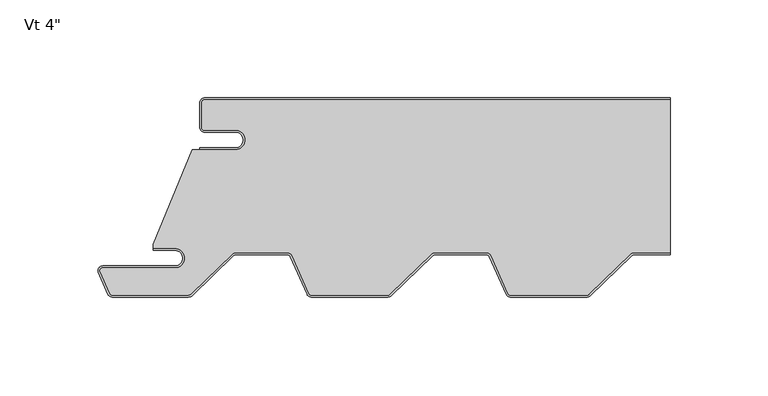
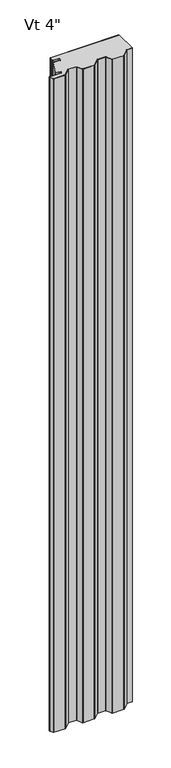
"""IFC4 building model written with IfcOpenShell, lengths in millimetres: plate geometry."""

from ifc_helpers import new_model, si_unit, point, frame_2d, origin, origin_with_axes, place, context, project, spatial, polyline, circle_curve, trimmed, segment, composite_curve, outline, extrude, source, transform, mapped, element, save


def plate_eade193c(model_context):
    return source(origin(), model_context, "Body", "SweptSolid", [
        extrude(outline(composite_curve([segment(trimmed(circle_curve(frame_2d((-101.3437498, -21.4324412)), 4.96875), [point((-101.3437498, -26.4011912))], [point((-101.3437498, -16.4636912))], True, "CARTESIAN"), True, "CONTINUOUS"), segment(polyline([(-101.3437498, -16.4636912), (-117.2187498, -16.4636912)]), True, "CONTINUOUS"), segment(trimmed(circle_curve(frame_2d((-117.2187498, -15.0824412)), 1.38125), [point((-117.2187498, -16.4636912))], [point((-118.5999998, -15.0824412))], False, "CARTESIAN"), True, "CONTINUOUS"), segment(polyline([(-118.5999998, -15.0824412), (-118.5999998, -2.3824412)]), True, "CONTINUOUS"), segment(trimmed(circle_curve(frame_2d((-117.2187498, -2.3824412)), 1.38125), [point((-118.5999998, -2.3824412))], [point((-117.2187498, -1.0011912))], False, "CARTESIAN"), True, "CONTINUOUS"), segment(polyline([(-117.2187498, -1.0011912), (120.4062498, -1.0011912), (120.4062498, -79.0862), (101.8742004, -79.0862)]), True, "CONTINUOUS"), segment(trimmed(circle_curve(frame_2d((101.8742004, -81.6737)), 2.5875), [point((101.8742004, -79.0862))], [point((100.0745498, -79.8145567))], True, "CARTESIAN"), True, "CONTINUOUS"), segment(polyline([(100.0745498, -79.8145567), (79.0036464, -100.2111912)]), True, "CONTINUOUS"), segment(trimmed(circle_curve(frame_2d((78.0429633, -99.21875)), 1.38125), [point((79.0036464, -100.2111912))], [point((78.0429633, -100.6))], False, "CARTESIAN"), True, "CONTINUOUS"), segment(polyline([(78.0429633, -100.6), (38.9062559, -100.6)]), True, "CONTINUOUS"), segment(trimmed(circle_curve(frame_2d((38.9062559, -99.21875)), 1.38125), [point((38.9062559, -100.6))], [point((37.6432556, -99.7779296))], False, "CARTESIAN"), True, "CONTINUOUS"), segment(polyline([(37.6432556, -99.7779296), (29.1640307, -80.6261871)]), True, "CONTINUOUS"), segment(trimmed(circle_curve(frame_2d((26.7980483, -81.6737)), 2.5875), [point((29.1640307, -80.6261871))], [point((26.7980483, -79.0862))], True, "CARTESIAN"), True, "CONTINUOUS"), segment(polyline([(26.7980483, -79.0862), (0.2742004, -79.0862)]), True, "CONTINUOUS"), segment(trimmed(circle_curve(frame_2d((0.2742004, -81.6737)), 2.5875), [point((0.2742004, -79.0862))], [point((-1.5254502, -79.8145567))], True, "CARTESIAN"), True, "CONTINUOUS"), segment(polyline([(-1.5254502, -79.8145567), (-22.5963536, -100.2111912)]), True, "CONTINUOUS"), segment(trimmed(circle_curve(frame_2d((-23.5570367, -99.21875)), 1.38125), [point((-22.5963536, -100.2111912))], [point((-23.5570367, -100.6))], False, "CARTESIAN"), True, "CONTINUOUS"), segment(polyline([(-23.5570367, -100.6), (-62.6937441, -100.6)]), True, "CONTINUOUS"), segment(trimmed(circle_curve(frame_2d((-62.6937441, -99.21875)), 1.38125), [point((-62.6937441, -100.6))], [point((-63.9567444, -99.7779296))], False, "CARTESIAN"), True, "CONTINUOUS"), segment(polyline([(-63.9567444, -99.7779296), (-72.4359693, -80.6261871)]), True, "CONTINUOUS"), segment(trimmed(circle_curve(frame_2d((-74.8019517, -81.6737)), 2.5875), [point((-72.4359693, -80.6261871))], [point((-74.8019517, -79.0862))], True, "CARTESIAN"), True, "CONTINUOUS"), segment(polyline([(-74.8019517, -79.0862), (-101.3257996, -79.0862)]), True, "CONTINUOUS"), segment(trimmed(circle_curve(frame_2d((-101.3257996, -81.6737)), 2.5875), [point((-101.3257996, -79.0862))], [point((-103.1254502, -79.8145567))], True, "CARTESIAN"), True, "CONTINUOUS"), segment(polyline([(-103.1254502, -79.8145567), (-123.987693, -100.0092077)]), True, "CONTINUOUS"), segment(trimmed(circle_curve(frame_2d((-125.4474444, -98.5012)), 2.0988), [point((-123.987693, -100.0092077))], [point((-125.4474444, -100.6))], False, "CARTESIAN"), True, "CONTINUOUS"), segment(polyline([(-125.4474444, -100.6), (-164.2937441, -100.6)]), True, "CONTINUOUS"), segment(trimmed(circle_curve(frame_2d((-164.2937441, -99.21875)), 1.38125), [point((-164.2937441, -100.6))], [point((-165.5567444, -99.7779296))], False, "CARTESIAN"), True, "CONTINUOUS"), segment(polyline([(-165.5567444, -99.7779296), (-170.4761551, -88.6666208)]), True, "CONTINUOUS"), segment(trimmed(circle_curve(frame_2d((-169.2131548, -88.1074412)), 1.38125), [point((-170.4761551, -88.6666208))], [point((-169.2131548, -86.7261912))], False, "CARTESIAN"), True, "CONTINUOUS"), segment(polyline([(-169.2131548, -86.7261912), (-132.2999998, -86.7261912)]), True, "CONTINUOUS"), segment(trimmed(circle_curve(frame_2d((-132.2999998, -81.7574412)), 4.96875), [point((-132.2999998, -86.7261912))], [point((-132.2999998, -76.7886912))], True, "CARTESIAN"), True, "CONTINUOUS"), segment(polyline([(-132.2999998, -76.7886912), (-143.4124998, -76.7886912), (-143.4124998, -74.633822), (-123.591411, -26.4011912), (-101.3437498, -26.4011912)]), True, "CONTINUOUS")], self_intersect=False)), origin_with_axes(), (0.0, 0.0, 1.0), 2400.0),
        extrude(outline(composite_curve([segment(polyline([(-119.5999998, -25.4), (-101.3437498, -25.4)]), True, "CONTINUOUS"), segment(trimmed(circle_curve(frame_2d((-101.3437498, -21.43125)), 3.96875), [point((-101.3437498, -25.4))], [point((-101.3437498, -17.4625))], True, "CARTESIAN"), True, "CONTINUOUS"), segment(polyline([(-101.3437498, -17.4625), (-117.2187498, -17.4625)]), True, "CONTINUOUS"), segment(trimmed(circle_curve(frame_2d((-117.2187498, -15.08125)), 2.38125), [point((-117.2187498, -17.4625))], [point((-119.5999998, -15.08125))], False, "CARTESIAN"), True, "CONTINUOUS"), segment(polyline([(-119.5999998, -15.08125), (-119.5999998, -2.38125)]), True, "CONTINUOUS"), segment(trimmed(circle_curve(frame_2d((-117.2187498, -2.38125)), 2.38125), [point((-119.5999998, -2.38125))], [point((-117.2187498, 0.0))], False, "CARTESIAN"), True, "CONTINUOUS"), segment(polyline([(-117.2187498, 0.0), (120.4062498, 0.0), (120.4062498, -1.0), (-117.2187498, -1.0)]), True, "CONTINUOUS"), segment(trimmed(circle_curve(frame_2d((-117.2187498, -2.38125)), 1.38125), [point((-117.2187498, -1.0))], [point((-118.5999998, -2.38125))], True, "CARTESIAN"), True, "CONTINUOUS"), segment(polyline([(-118.5999998, -2.38125), (-118.5999998, -15.08125)]), True, "CONTINUOUS"), segment(trimmed(circle_curve(frame_2d((-117.2187498, -15.08125)), 1.38125), [point((-118.5999998, -15.08125))], [point((-117.2187498, -16.4625))], True, "CARTESIAN"), True, "CONTINUOUS"), segment(polyline([(-117.2187498, -16.4625), (-101.3437498, -16.4625)]), True, "CONTINUOUS"), segment(trimmed(circle_curve(frame_2d((-101.3437498, -21.43125)), 4.96875), [point((-101.3437498, -16.4625))], [point((-101.3437498, -26.4))], False, "CARTESIAN"), True, "CONTINUOUS"), segment(polyline([(-101.3437498, -26.4), (-119.5999998, -26.4), (-119.5999998, -25.4)]), True, "CONTINUOUS")], self_intersect=False)), origin_with_axes(), (0.0, 0.0, 1.0), 2400.0),
        extrude(outline(composite_curve([segment(trimmed(circle_curve(frame_2d((-132.2999998, -81.7574412)), 3.96875), [point((-132.2999998, -85.7261912))], [point((-132.2999998, -77.7886912))], True, "CARTESIAN"), True, "CONTINUOUS"), segment(polyline([(-132.2999998, -77.7886912), (-143.4124998, -77.7886912), (-143.4124998, -76.7886912), (-132.2999998, -76.7886912)]), True, "CONTINUOUS"), segment(trimmed(circle_curve(frame_2d((-132.2999998, -81.7574412)), 4.96875), [point((-132.2999998, -76.7886912))], [point((-132.2999998, -86.7261912))], False, "CARTESIAN"), True, "CONTINUOUS"), segment(polyline([(-132.2999998, -86.7261912), (-169.2131548, -86.7261912)]), True, "CONTINUOUS"), segment(trimmed(circle_curve(frame_2d((-169.2131548, -88.1074412)), 1.38125), [point((-169.2131548, -86.7261912))], [point((-170.4761551, -88.6666208))], True, "CARTESIAN"), True, "CONTINUOUS"), segment(polyline([(-170.4761551, -88.6666208), (-165.5567444, -99.7779296)]), True, "CONTINUOUS"), segment(trimmed(circle_curve(frame_2d((-164.2937441, -99.21875)), 1.38125), [point((-165.5567444, -99.7779296))], [point((-164.2937441, -100.6))], True, "CARTESIAN"), True, "CONTINUOUS"), segment(polyline([(-164.2937441, -100.6), (-125.4474444, -100.6)]), True, "CONTINUOUS"), segment(trimmed(circle_curve(frame_2d((-125.4474444, -98.5012)), 2.0988), [point((-125.4474444, -100.6))], [point((-123.987693, -100.0092077))], True, "CARTESIAN"), True, "CONTINUOUS"), segment(polyline([(-123.987693, -100.0092077), (-103.1254502, -79.8145567)]), True, "CONTINUOUS"), segment(trimmed(circle_curve(frame_2d((-101.3257996, -81.6737)), 2.5875), [point((-103.1254502, -79.8145567))], [point((-101.3257996, -79.0862))], False, "CARTESIAN"), True, "CONTINUOUS"), segment(polyline([(-101.3257996, -79.0862), (-74.8019517, -79.0862)]), True, "CONTINUOUS"), segment(trimmed(circle_curve(frame_2d((-74.8019517, -81.6737)), 2.5875), [point((-74.8019517, -79.0862))], [point((-72.4359693, -80.6261871))], False, "CARTESIAN"), True, "CONTINUOUS"), segment(polyline([(-72.4359693, -80.6261871), (-63.9567444, -99.7779296)]), True, "CONTINUOUS"), segment(trimmed(circle_curve(frame_2d((-62.6937441, -99.21875)), 1.38125), [point((-63.9567444, -99.7779296))], [point((-62.6937441, -100.6))], True, "CARTESIAN"), True, "CONTINUOUS"), segment(polyline([(-62.6937441, -100.6), (-23.5570367, -100.6)]), True, "CONTINUOUS"), segment(trimmed(circle_curve(frame_2d((-23.5570367, -99.21875)), 1.38125), [point((-23.5570367, -100.6))], [point((-22.5963536, -100.2111912))], True, "CARTESIAN"), True, "CONTINUOUS"), segment(polyline([(-22.5963536, -100.2111912), (-1.5254502, -79.8145567)]), True, "CONTINUOUS"), segment(trimmed(circle_curve(frame_2d((0.2742004, -81.6737)), 2.5875), [point((-1.5254502, -79.8145567))], [point((0.2742004, -79.0862))], False, "CARTESIAN"), True, "CONTINUOUS"), segment(polyline([(0.2742004, -79.0862), (26.7980483, -79.0862)]), True, "CONTINUOUS"), segment(trimmed(circle_curve(frame_2d((26.7980483, -81.6737)), 2.5875), [point((26.7980483, -79.0862))], [point((29.1640307, -80.6261871))], False, "CARTESIAN"), True, "CONTINUOUS"), segment(polyline([(29.1640307, -80.6261871), (37.6432556, -99.7779296)]), True, "CONTINUOUS"), segment(trimmed(circle_curve(frame_2d((38.9062559, -99.21875)), 1.38125), [point((37.6432556, -99.7779296))], [point((38.9062559, -100.6))], True, "CARTESIAN"), True, "CONTINUOUS"), segment(polyline([(38.9062559, -100.6), (78.0429633, -100.6)]), True, "CONTINUOUS"), segment(trimmed(circle_curve(frame_2d((78.0429633, -99.21875)), 1.38125), [point((78.0429633, -100.6))], [point((79.0036464, -100.2111912))], True, "CARTESIAN"), True, "CONTINUOUS"), segment(polyline([(79.0036464, -100.2111912), (100.0745498, -79.8145567)]), True, "CONTINUOUS"), segment(trimmed(circle_curve(frame_2d((101.8742004, -81.6737)), 2.5875), [point((100.0745498, -79.8145567))], [point((101.8742004, -79.0862))], False, "CARTESIAN"), True, "CONTINUOUS"), segment(polyline([(101.8742004, -79.0862), (120.4062498, -79.0862), (120.4062498, -80.0862), (101.8742004, -80.0862)]), True, "CONTINUOUS"), segment(trimmed(circle_curve(frame_2d((101.8742004, -81.6737)), 1.5875), [point((101.8742004, -80.0862))], [point((100.7700669, -80.5330662))], True, "CARTESIAN"), True, "CONTINUOUS"), segment(polyline([(100.7700669, -80.5330662), (79.6991635, -100.9297007)]), True, "CONTINUOUS"), segment(trimmed(circle_curve(frame_2d((78.0429633, -99.21875)), 2.38125), [point((79.6991635, -100.9297007))], [point((78.0429633, -101.6))], False, "CARTESIAN"), True, "CONTINUOUS"), segment(polyline([(78.0429633, -101.6), (38.9062559, -101.6)]), True, "CONTINUOUS"), segment(trimmed(circle_curve(frame_2d((38.9062559, -99.21875)), 2.38125), [point((38.9062559, -101.6))], [point((36.7288662, -100.1827655))], False, "CARTESIAN"), True, "CONTINUOUS"), segment(polyline([(36.7288662, -100.1827655), (28.2496414, -81.031023)]), True, "CONTINUOUS"), segment(trimmed(circle_curve(frame_2d((26.7980483, -81.6737)), 1.5875), [point((28.2496414, -81.031023))], [point((26.7980483, -80.0862))], True, "CARTESIAN"), True, "CONTINUOUS"), segment(polyline([(26.7980483, -80.0862), (0.2742004, -80.0862)]), True, "CONTINUOUS"), segment(trimmed(circle_curve(frame_2d((0.2742004, -81.6737)), 1.5875), [point((0.2742004, -80.0862))], [point((-0.8299331, -80.5330662))], True, "CARTESIAN"), True, "CONTINUOUS"), segment(polyline([(-0.8299331, -80.5330662), (-21.9008365, -100.9297007)]), True, "CONTINUOUS"), segment(trimmed(circle_curve(frame_2d((-23.5570367, -99.21875)), 2.38125), [point((-21.9008365, -100.9297007))], [point((-23.5570367, -101.6))], False, "CARTESIAN"), True, "CONTINUOUS"), segment(polyline([(-23.5570367, -101.6), (-62.6937441, -101.6)]), True, "CONTINUOUS"), segment(trimmed(circle_curve(frame_2d((-62.6937441, -99.21875)), 2.38125), [point((-62.6937441, -101.6))], [point((-64.8711338, -100.1827655))], False, "CARTESIAN"), True, "CONTINUOUS"), segment(polyline([(-64.8711338, -100.1827655), (-73.3503586, -81.031023)]), True, "CONTINUOUS"), segment(trimmed(circle_curve(frame_2d((-74.8019517, -81.6737)), 1.5875), [point((-73.3503586, -81.031023))], [point((-74.8019517, -80.0862))], True, "CARTESIAN"), True, "CONTINUOUS"), segment(polyline([(-74.8019517, -80.0862), (-101.3257996, -80.0862)]), True, "CONTINUOUS"), segment(trimmed(circle_curve(frame_2d((-101.3257996, -81.6737)), 1.5875), [point((-101.3257996, -80.0862))], [point((-102.4299331, -80.5330662))], True, "CARTESIAN"), True, "CONTINUOUS"), segment(polyline([(-102.4299331, -80.5330662), (-123.2921758, -100.7277172)]), True, "CONTINUOUS"), segment(trimmed(circle_curve(frame_2d((-125.4474444, -98.5012)), 3.0988), [point((-123.2921758, -100.7277172))], [point((-125.4474444, -101.6))], False, "CARTESIAN"), True, "CONTINUOUS"), segment(polyline([(-125.4474444, -101.6), (-164.2937441, -101.6)]), True, "CONTINUOUS"), segment(trimmed(circle_curve(frame_2d((-164.2937441, -99.21875)), 2.38125), [point((-164.2937441, -101.6))], [point((-166.4711338, -100.1827655))], False, "CARTESIAN"), True, "CONTINUOUS"), segment(polyline([(-166.4711338, -100.1827655), (-171.3905444, -89.0714567)]), True, "CONTINUOUS"), segment(trimmed(circle_curve(frame_2d((-169.2131548, -88.1074412)), 2.38125), [point((-171.3905444, -89.0714567))], [point((-169.2131548, -85.7261912))], False, "CARTESIAN"), True, "CONTINUOUS"), segment(polyline([(-169.2131548, -85.7261912), (-132.2999998, -85.7261912)]), True, "CONTINUOUS")], self_intersect=False)), origin_with_axes(), (0.0, 0.0, 1.0), 2400.0),
    ])


if __name__ == "__main__":
    model = new_model("IFC4")
    model_context = context("Model", 3, world=origin())
    ifc_project = project(units=[si_unit("LENGTHUNIT", "METRE", prefix="MILLI")], contexts=[model_context])
    site = spatial("IfcSite", under=ifc_project)
    building = spatial("IfcBuilding", under=site)
    placement = place(None, origin())
    plate_shape = plate_eade193c(model_context)
    element("IfcPlate", 1, ObjectType="KIP-16-DWR-R19-CP-Vt-S : Vt 4\"", at=placement, inside=building, context=model_context, shape_type="MappedRepresentation", body=[
        mapped(plate_shape, transform((0.0, 0.0, 0.0), x_axis=(1.0, 0.0, 0.0), y_axis=(0.0, 1.0, 0.0), z_axis=(0.0, 0.0, 1.0))),
    ])
    save(model, "model.ifc")
